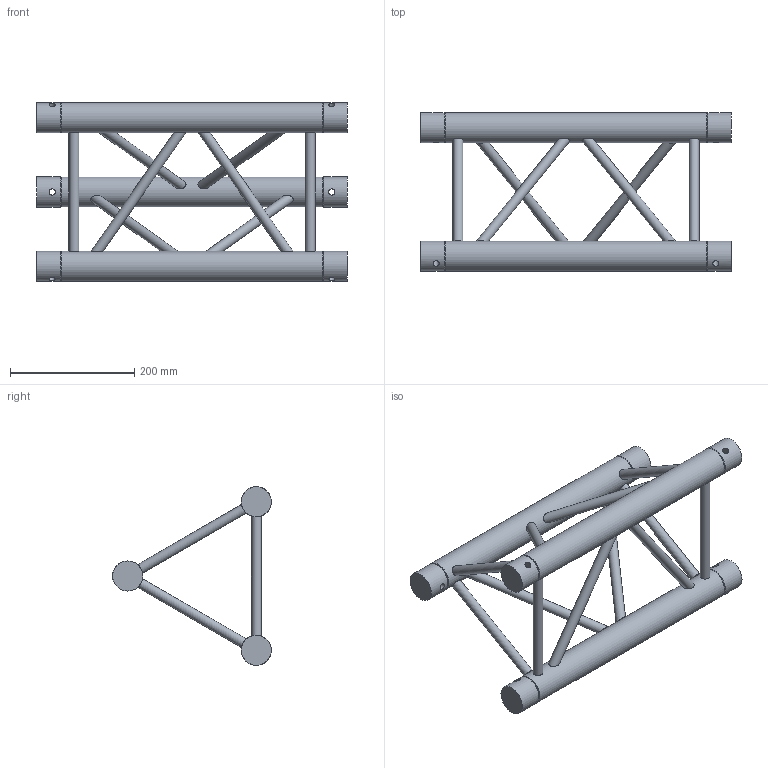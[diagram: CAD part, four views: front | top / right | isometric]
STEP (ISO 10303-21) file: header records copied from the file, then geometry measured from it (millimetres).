
FILE_DESCRIPTION(/* description */ (''),/* implementation_level */ '2;1');
FILE_NAME(/* name */ 'M:\Symbolen\STP\30-er truss\111050006.stp',/* time_stamp */ '2014-12-03T11:49:27+01:00',/* author */ ('Stephan'),/* organization */ (''),/* preprocessor_version */ 'ST-DEVELOPER v15.6',/* originating_system */ 'Autodesk Inventor 2015',/* authorisation */ '');
FILE_SCHEMA (('AUTOMOTIVE_DESIGN { 1 0 10303 214 3 1 1 }'));
Length unit declared in the file: millimetre
Products named in the file (1): 160023770
Bounding box: 500 x 255.28 x 287.3 mm (x, y, z)
Volume: 2774754.5 mm3; surface area: 382136.5 mm2
Topology: 9 solids, 15 shells, 81 faces, 141 edges, 90 vertices
Faces by surface type: plane 48, cylinder 27, cone 6
Full cylindrical faces by diameter (mm): 10 x6, 16 x12, 48.3 x9
Entity records: 2334 total; most frequent: CARTESIAN_POINT 682, DIRECTION 296, ORIENTED_EDGE 216, EDGE_LOOP 144, AXIS2_PLACEMENT_3D 142, EDGE_CURVE 96, STYLED_ITEM 88, VERTEX_POINT 84
